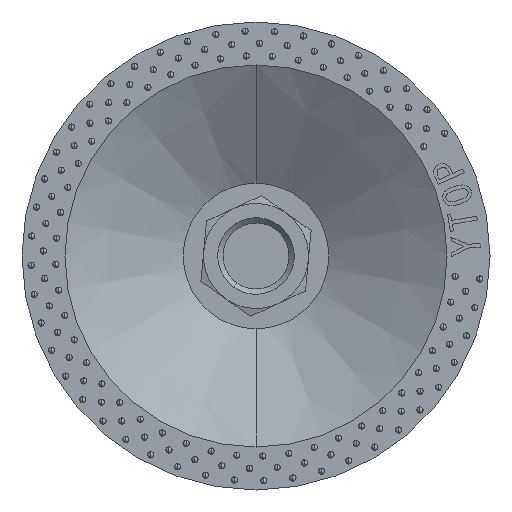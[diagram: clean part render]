
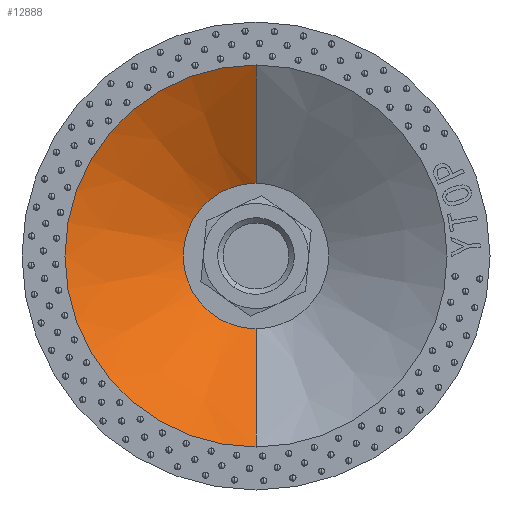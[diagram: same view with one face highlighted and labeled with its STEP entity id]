
A CAD part, front view. The second image highlights one B-rep face of the part: STEP entity #12888.
In plain terms, the highlighted conical face has half-angle 58.836 degrees and reference radius 40 mm.
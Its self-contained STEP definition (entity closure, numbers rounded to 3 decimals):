
#116 = CARTESIAN_POINT ( 'NONE',  ( 0., 4.932, 40. ) ) ;
#202 = DIRECTION ( 'NONE',  ( 0., -0.517, 0.856 ) ) ;
#300 = DIRECTION ( 'NONE',  ( 0., -1., 0. ) ) ;
#379 = CARTESIAN_POINT ( 'NONE',  ( 0., 4.932, -40. ) ) ;
#569 = EDGE_CURVE ( 'NONE', #7903, #14087, #7620, .T. ) ;
#2461 = AXIS2_PLACEMENT_3D ( 'NONE', #12982, #22425, #18452 ) ;
#2470 = CARTESIAN_POINT ( 'NONE',  ( 0., 4.932, 0. ) ) ;
#2970 = DIRECTION ( 'NONE',  ( 0., 0., 1. ) ) ;
#4194 = DIRECTION ( 'NONE',  ( 0., -0.517, -0.856 ) ) ;
#4690 = CARTESIAN_POINT ( 'NONE',  ( 0., 19.9, -15.25 ) ) ;
#5384 = ORIENTED_EDGE ( 'NONE', *, *, #13356, .T. ) ;
#6674 = ORIENTED_EDGE ( 'NONE', *, *, #569, .F. ) ;
#7620 = CIRCLE ( 'NONE', #17072, 40. ) ;
#7903 = VERTEX_POINT ( 'NONE', #379 ) ;
#8461 = CARTESIAN_POINT ( 'NONE',  ( 0., 4.932, 40. ) ) ;
#9292 = EDGE_CURVE ( 'NONE', #24418, #7903, #24935, .T. ) ;
#9692 = CARTESIAN_POINT ( 'NONE',  ( 0., 4.932, -40. ) ) ;
#10436 = EDGE_CURVE ( 'NONE', #11003, #14087, #17379, .T. ) ;
#11003 = VERTEX_POINT ( 'NONE', #15273 ) ;
#12290 = VECTOR ( 'NONE', #202, 1000. ) ;
#12888 = ADVANCED_FACE ( 'NONE', ( #15610 ), #15310, .F. ) ;
#12982 = CARTESIAN_POINT ( 'NONE',  ( 0., 19.9, 0. ) ) ;
#13356 = EDGE_CURVE ( 'NONE', #24418, #11003, #22547, .T. ) ;
#14087 = VERTEX_POINT ( 'NONE', #8461 ) ;
#14635 = DIRECTION ( 'NONE',  ( 0., 1., 0. ) ) ;
#15273 = CARTESIAN_POINT ( 'NONE',  ( 0., 19.9, 15.25 ) ) ;
#15310 = CONICAL_SURFACE ( 'NONE', #20677, 40., 1.027 ) ;
#15610 = FACE_OUTER_BOUND ( 'NONE', #16217, .T. ) ;
#15904 = DIRECTION ( 'NONE',  ( 0., 0., -1. ) ) ;
#16217 = EDGE_LOOP ( 'NONE', ( #5384, #22774, #6674, #16711 ) ) ;
#16645 = CARTESIAN_POINT ( 'NONE',  ( 0., 4.932, 0. ) ) ;
#16711 = ORIENTED_EDGE ( 'NONE', *, *, #9292, .F. ) ;
#17072 = AXIS2_PLACEMENT_3D ( 'NONE', #16645, #14635, #2970 ) ;
#17379 = LINE ( 'NONE', #116, #12290 ) ;
#18452 = DIRECTION ( 'NONE',  ( 0., 0., 1. ) ) ;
#20677 = AXIS2_PLACEMENT_3D ( 'NONE', #2470, #300, #15904 ) ;
#22425 = DIRECTION ( 'NONE',  ( 0., 1., 0. ) ) ;
#22547 = CIRCLE ( 'NONE', #2461, 15.25 ) ;
#22774 = ORIENTED_EDGE ( 'NONE', *, *, #10436, .T. ) ;
#24326 = VECTOR ( 'NONE', #4194, 1000. ) ;
#24418 = VERTEX_POINT ( 'NONE', #4690 ) ;
#24935 = LINE ( 'NONE', #9692, #24326 ) ;
